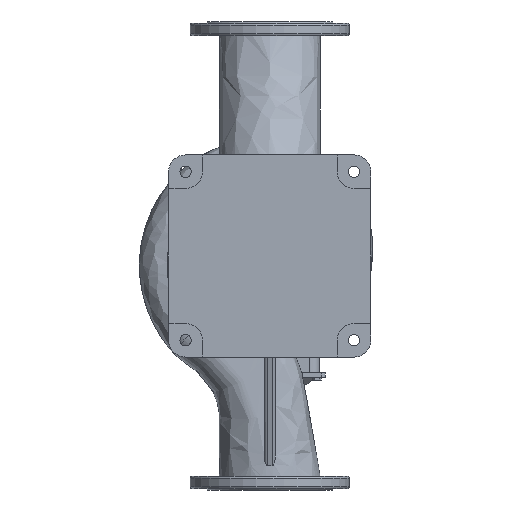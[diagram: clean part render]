
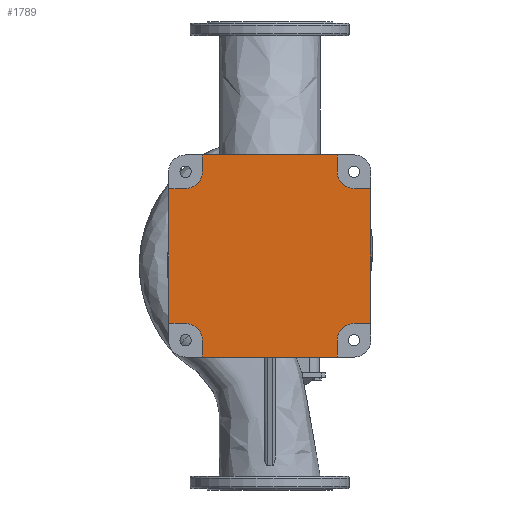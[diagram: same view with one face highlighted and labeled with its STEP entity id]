
A CAD part, front view. The second image highlights one B-rep face of the part: STEP entity #1789.
In plain terms, the highlighted planar face has unit normal (0, -1, 0).
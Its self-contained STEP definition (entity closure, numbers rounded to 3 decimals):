
#1035=PLANE('',#25899);
#1789=ADVANCED_FACE('',(#3731),#1035,.F.);
#3731=FACE_OUTER_BOUND('',#5197,.T.);
#5197=EDGE_LOOP('',(#12062,#12063,#12064,#12065,#12066,#12067,#12068,#12069,
#12070,#12071,#12072,#12073,#12074,#12075,#12076,#12077));
#6850=LINE('',#43179,#8224);
#6857=LINE('',#43192,#8231);
#6862=LINE('',#43201,#8236);
#6867=LINE('',#43211,#8241);
#6875=LINE('',#43232,#8249);
#6876=LINE('',#43234,#8250);
#6879=LINE('',#43242,#8253);
#6880=LINE('',#43244,#8254);
#6883=LINE('',#43252,#8257);
#6884=LINE('',#43254,#8258);
#6887=LINE('',#43262,#8261);
#6888=LINE('',#43264,#8262);
#8224=VECTOR('',#29406,1.);
#8231=VECTOR('',#29417,1.);
#8236=VECTOR('',#29426,1.);
#8241=VECTOR('',#29435,1.);
#8249=VECTOR('',#29457,1.);
#8250=VECTOR('',#29460,1.);
#8253=VECTOR('',#29469,1.);
#8254=VECTOR('',#29472,1.);
#8257=VECTOR('',#29481,1.);
#8258=VECTOR('',#29484,1.);
#8261=VECTOR('',#29493,1.);
#8262=VECTOR('',#29496,1.);
#9675=CIRCLE('',#25883,36.);
#9676=CIRCLE('',#25887,36.);
#9677=CIRCLE('',#25891,36.);
#9678=CIRCLE('',#25895,36.);
#12062=ORIENTED_EDGE('',*,*,#21356,.T.);
#12063=ORIENTED_EDGE('',*,*,#21374,.T.);
#12064=ORIENTED_EDGE('',*,*,#21330,.T.);
#12065=ORIENTED_EDGE('',*,*,#21373,.T.);
#12066=ORIENTED_EDGE('',*,*,#21371,.T.);
#12067=ORIENTED_EDGE('',*,*,#21369,.T.);
#12068=ORIENTED_EDGE('',*,*,#21337,.T.);
#12069=ORIENTED_EDGE('',*,*,#21368,.T.);
#12070=ORIENTED_EDGE('',*,*,#21366,.T.);
#12071=ORIENTED_EDGE('',*,*,#21364,.T.);
#12072=ORIENTED_EDGE('',*,*,#21342,.T.);
#12073=ORIENTED_EDGE('',*,*,#21363,.T.);
#12074=ORIENTED_EDGE('',*,*,#21361,.T.);
#12075=ORIENTED_EDGE('',*,*,#21359,.T.);
#12076=ORIENTED_EDGE('',*,*,#21347,.T.);
#12077=ORIENTED_EDGE('',*,*,#21358,.T.);
#18745=VERTEX_POINT('',#43178);
#18746=VERTEX_POINT('',#43180);
#18749=VERTEX_POINT('',#43191);
#18750=VERTEX_POINT('',#43193);
#18751=VERTEX_POINT('',#43200);
#18752=VERTEX_POINT('',#43202);
#18753=VERTEX_POINT('',#43209);
#18755=VERTEX_POINT('',#43212);
#18759=VERTEX_POINT('',#43227);
#18760=VERTEX_POINT('',#43229);
#18761=VERTEX_POINT('',#43235);
#18762=VERTEX_POINT('',#43239);
#18763=VERTEX_POINT('',#43245);
#18764=VERTEX_POINT('',#43249);
#18765=VERTEX_POINT('',#43255);
#18766=VERTEX_POINT('',#43259);
#21330=EDGE_CURVE('',#18746,#18745,#6850,.T.);
#21337=EDGE_CURVE('',#18750,#18749,#6857,.T.);
#21342=EDGE_CURVE('',#18752,#18751,#6862,.T.);
#21347=EDGE_CURVE('',#18755,#18753,#6867,.T.);
#21356=EDGE_CURVE('',#18760,#18759,#9675,.T.);
#21358=EDGE_CURVE('',#18753,#18760,#6875,.T.);
#21359=EDGE_CURVE('',#18761,#18755,#6876,.T.);
#21361=EDGE_CURVE('',#18762,#18761,#9676,.T.);
#21363=EDGE_CURVE('',#18751,#18762,#6879,.T.);
#21364=EDGE_CURVE('',#18763,#18752,#6880,.T.);
#21366=EDGE_CURVE('',#18764,#18763,#9677,.T.);
#21368=EDGE_CURVE('',#18749,#18764,#6883,.T.);
#21369=EDGE_CURVE('',#18765,#18750,#6884,.T.);
#21371=EDGE_CURVE('',#18766,#18765,#9678,.T.);
#21373=EDGE_CURVE('',#18745,#18766,#6887,.T.);
#21374=EDGE_CURVE('',#18759,#18746,#6888,.T.);
#25883=AXIS2_PLACEMENT_3D('',#43228,#29452,#29453);
#25887=AXIS2_PLACEMENT_3D('',#43238,#29464,#29465);
#25891=AXIS2_PLACEMENT_3D('',#43248,#29476,#29477);
#25895=AXIS2_PLACEMENT_3D('',#43258,#29488,#29489);
#25899=AXIS2_PLACEMENT_3D('',#43266,#29499,#29500);
#29406=DIRECTION('',(1.,0.,0.));
#29417=DIRECTION('',(0.,0.,1.));
#29426=DIRECTION('',(-1.,0.,0.));
#29435=DIRECTION('',(0.,0.,-1.));
#29452=DIRECTION('',(0.,1.,0.));
#29453=DIRECTION('',(0.,0.,1.));
#29457=DIRECTION('',(1.,0.,0.));
#29460=DIRECTION('',(-1.,0.,0.));
#29464=DIRECTION('',(0.,1.,0.));
#29465=DIRECTION('',(0.,0.,1.));
#29469=DIRECTION('',(0.,0.,-1.));
#29472=DIRECTION('',(0.,0.,1.));
#29476=DIRECTION('',(0.,1.,0.));
#29477=DIRECTION('',(0.,0.,1.));
#29481=DIRECTION('',(-1.,0.,0.));
#29484=DIRECTION('',(1.,0.,0.));
#29488=DIRECTION('',(0.,1.,0.));
#29489=DIRECTION('',(0.,0.,1.));
#29493=DIRECTION('',(0.,0.,1.));
#29496=DIRECTION('',(0.,0.,-1.));
#29499=DIRECTION('',(0.,1.,0.));
#29500=DIRECTION('',(0.,0.,-1.));
#43178=CARTESIAN_POINT('',(144.,-265.,-216.));
#43179=CARTESIAN_POINT('',(144.,-265.,-216.));
#43180=CARTESIAN_POINT('',(-144.,-265.,-216.));
#43191=CARTESIAN_POINT('',(216.,-265.,144.));
#43192=CARTESIAN_POINT('',(216.,-265.,144.));
#43193=CARTESIAN_POINT('',(216.,-265.,-144.));
#43200=CARTESIAN_POINT('',(-144.,-265.,216.));
#43201=CARTESIAN_POINT('',(-144.,-265.,216.));
#43202=CARTESIAN_POINT('',(144.,-265.,216.));
#43209=CARTESIAN_POINT('',(-216.,-265.,-144.));
#43211=CARTESIAN_POINT('',(-216.,-265.,-144.));
#43212=CARTESIAN_POINT('',(-216.,-265.,144.));
#43227=CARTESIAN_POINT('',(-144.,-265.,-180.));
#43228=CARTESIAN_POINT('',(-180.,-265.,-180.));
#43229=CARTESIAN_POINT('',(-180.,-265.,-144.));
#43232=CARTESIAN_POINT('',(-180.,-265.,-144.));
#43234=CARTESIAN_POINT('',(-180.,-265.,144.));
#43235=CARTESIAN_POINT('',(-180.,-265.,144.));
#43238=CARTESIAN_POINT('',(-180.,-265.,180.));
#43239=CARTESIAN_POINT('',(-144.,-265.,180.));
#43242=CARTESIAN_POINT('',(-144.,-265.,180.));
#43244=CARTESIAN_POINT('',(144.,-265.,180.));
#43245=CARTESIAN_POINT('',(144.,-265.,180.));
#43248=CARTESIAN_POINT('',(180.,-265.,180.));
#43249=CARTESIAN_POINT('',(180.,-265.,144.));
#43252=CARTESIAN_POINT('',(180.,-265.,144.));
#43254=CARTESIAN_POINT('',(180.,-265.,-144.));
#43255=CARTESIAN_POINT('',(180.,-265.,-144.));
#43258=CARTESIAN_POINT('',(180.,-265.,-180.));
#43259=CARTESIAN_POINT('',(144.,-265.,-180.));
#43262=CARTESIAN_POINT('',(144.,-265.,-180.));
#43264=CARTESIAN_POINT('',(-144.,-265.,-180.));
#43266=CARTESIAN_POINT('',(-180.,-265.,-180.));
